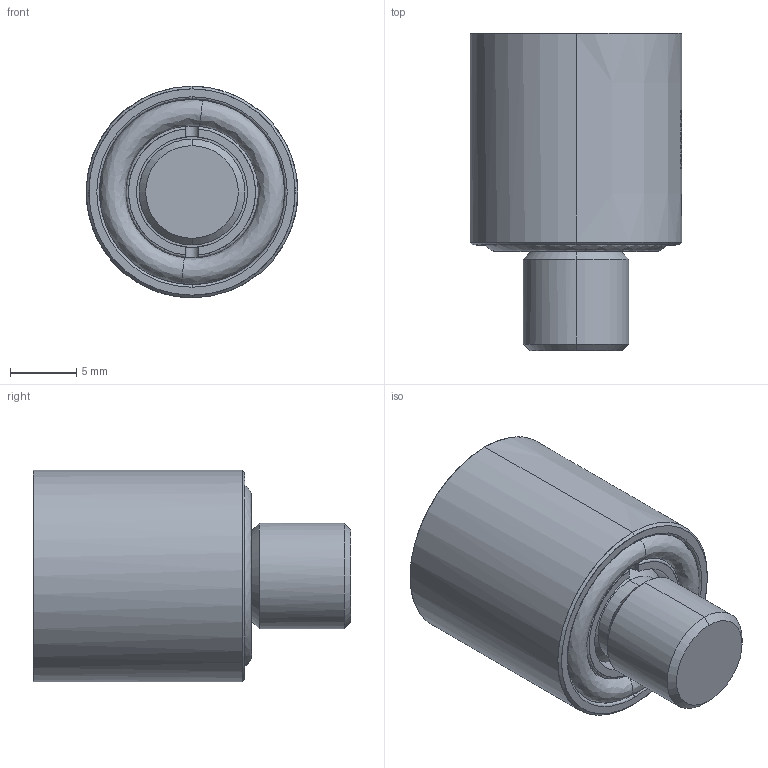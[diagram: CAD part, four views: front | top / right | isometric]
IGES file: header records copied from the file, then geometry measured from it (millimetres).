
Start section: START RECORD GO HERE.
Global section: file name: sa160016.igs; native system: DASSAULT SYSTEMES CATIA V5 R20 - www.3ds.com; preprocessor: CATIA Version 5 Release 20 ; author: Utente; organization: NB04-ASUS; date: 20201107.131845; units: millimetre
Bounding box: 16 x 24 x 16 mm (x, y, z)
Surface area: 2931 mm2 (no closed solid volume)
Topology: 0 solids, 0 shells, 492 faces, 2726 edges, 2724 vertices
Faces by surface type: bspline 298, plane 104, revolution 90
